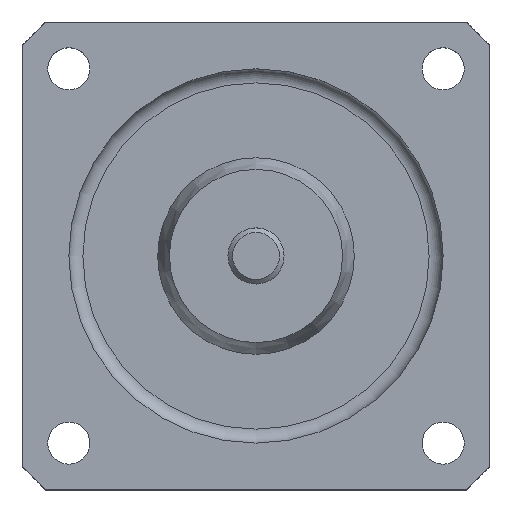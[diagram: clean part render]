
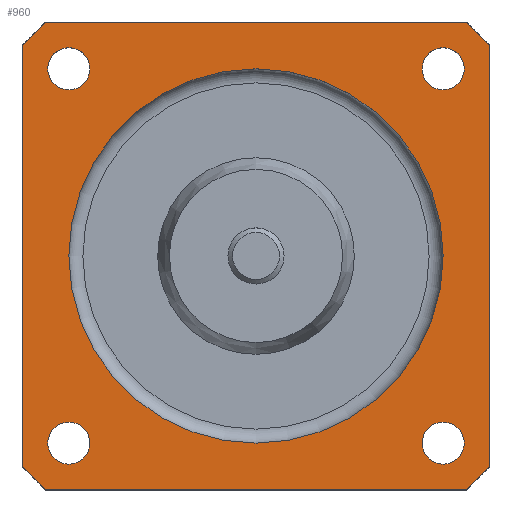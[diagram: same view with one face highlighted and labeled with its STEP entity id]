
A CAD part, top view. The second image highlights one B-rep face of the part: STEP entity #960.
In plain terms, the highlighted planar face has unit normal (0, 0, 1).
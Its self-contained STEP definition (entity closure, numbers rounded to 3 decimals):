
#63=LINE('',#1513,#117);
#67=LINE('',#1522,#121);
#71=LINE('',#1536,#125);
#73=LINE('',#1539,#127);
#78=LINE('',#1550,#132);
#81=LINE('',#1558,#135);
#85=LINE('',#1568,#139);
#86=LINE('',#1570,#140);
#117=VECTOR('',#1224,90.);
#121=VECTOR('',#1232,7.071);
#125=VECTOR('',#1244,90.);
#127=VECTOR('',#1248,7.071);
#132=VECTOR('',#1259,90.);
#135=VECTOR('',#1266,7.071);
#139=VECTOR('',#1276,90.);
#140=VECTOR('',#1279,7.071);
#160=PLANE('',#1049);
#173=FACE_BOUND('',#328,.T.);
#174=FACE_BOUND('',#329,.T.);
#175=FACE_BOUND('',#330,.T.);
#176=FACE_BOUND('',#331,.T.);
#177=FACE_BOUND('',#332,.T.);
#262=FACE_OUTER_BOUND('',#327,.T.);
#327=EDGE_LOOP('',(#773,#774,#775,#776,#777,#778,#779,#780));
#328=EDGE_LOOP('',(#781));
#329=EDGE_LOOP('',(#782));
#330=EDGE_LOOP('',(#783));
#331=EDGE_LOOP('',(#784));
#332=EDGE_LOOP('',(#785));
#412=CIRCLE('',#1050,4.5);
#413=CIRCLE('',#1051,4.5);
#414=CIRCLE('',#1052,4.5);
#415=CIRCLE('',#1053,4.5);
#416=CIRCLE('',#1054,40.);
#479=VERTEX_POINT('',#1510);
#480=VERTEX_POINT('',#1512);
#483=VERTEX_POINT('',#1520);
#488=VERTEX_POINT('',#1533);
#489=VERTEX_POINT('',#1535);
#492=VERTEX_POINT('',#1548);
#495=VERTEX_POINT('',#1556);
#498=VERTEX_POINT('',#1566);
#499=VERTEX_POINT('',#1573);
#500=VERTEX_POINT('',#1575);
#501=VERTEX_POINT('',#1577);
#502=VERTEX_POINT('',#1579);
#503=VERTEX_POINT('',#1581);
#579=EDGE_CURVE('',#479,#480,#63,.T.);
#584=EDGE_CURVE('',#483,#479,#67,.T.);
#590=EDGE_CURVE('',#488,#489,#71,.T.);
#592=EDGE_CURVE('',#480,#488,#73,.T.);
#598=EDGE_CURVE('',#492,#483,#78,.T.);
#602=EDGE_CURVE('',#495,#492,#81,.T.);
#607=EDGE_CURVE('',#498,#495,#85,.T.);
#608=EDGE_CURVE('',#489,#498,#86,.T.);
#610=EDGE_CURVE('',#499,#499,#412,.T.);
#611=EDGE_CURVE('',#500,#500,#413,.T.);
#612=EDGE_CURVE('',#501,#501,#414,.T.);
#613=EDGE_CURVE('',#502,#502,#415,.T.);
#614=EDGE_CURVE('',#503,#503,#416,.T.);
#773=ORIENTED_EDGE('',*,*,#592,.F.);
#774=ORIENTED_EDGE('',*,*,#579,.F.);
#775=ORIENTED_EDGE('',*,*,#584,.F.);
#776=ORIENTED_EDGE('',*,*,#598,.F.);
#777=ORIENTED_EDGE('',*,*,#602,.F.);
#778=ORIENTED_EDGE('',*,*,#607,.F.);
#779=ORIENTED_EDGE('',*,*,#608,.F.);
#780=ORIENTED_EDGE('',*,*,#590,.F.);
#781=ORIENTED_EDGE('',*,*,#610,.T.);
#782=ORIENTED_EDGE('',*,*,#611,.T.);
#783=ORIENTED_EDGE('',*,*,#612,.T.);
#784=ORIENTED_EDGE('',*,*,#613,.T.);
#785=ORIENTED_EDGE('',*,*,#614,.F.);
#960=ADVANCED_FACE('',(#262,#173,#174,#175,#176,#177),#160,.T.);
#1049=AXIS2_PLACEMENT_3D('',#1572,#1281,#1282);
#1050=AXIS2_PLACEMENT_3D('',#1574,#1283,#1284);
#1051=AXIS2_PLACEMENT_3D('',#1576,#1285,#1286);
#1052=AXIS2_PLACEMENT_3D('',#1578,#1287,#1288);
#1053=AXIS2_PLACEMENT_3D('',#1580,#1289,#1290);
#1054=AXIS2_PLACEMENT_3D('',#1582,#1291,#1292);
#1224=DIRECTION('',(0.,1.,0.));
#1232=DIRECTION('',(-0.707,0.707,0.));
#1244=DIRECTION('',(1.,0.,0.));
#1248=DIRECTION('',(0.707,0.707,0.));
#1259=DIRECTION('',(-1.,0.,0.));
#1266=DIRECTION('',(-0.707,-0.707,0.));
#1276=DIRECTION('',(0.,-1.,0.));
#1279=DIRECTION('',(0.707,-0.707,0.));
#1281=DIRECTION('center_axis',(0.,0.,1.));
#1282=DIRECTION('ref_axis',(1.,0.,0.));
#1283=DIRECTION('center_axis',(0.,0.,-1.));
#1284=DIRECTION('ref_axis',(1.,0.,0.));
#1285=DIRECTION('center_axis',(0.,0.,-1.));
#1286=DIRECTION('ref_axis',(1.,0.,0.));
#1287=DIRECTION('center_axis',(0.,0.,-1.));
#1288=DIRECTION('ref_axis',(1.,0.,0.));
#1289=DIRECTION('center_axis',(0.,0.,-1.));
#1290=DIRECTION('ref_axis',(1.,0.,0.));
#1291=DIRECTION('center_axis',(0.,0.,1.));
#1292=DIRECTION('ref_axis',(0.,-1.,0.));
#1510=CARTESIAN_POINT('',(-50.,-45.,0.));
#1512=CARTESIAN_POINT('',(-50.,45.,0.));
#1513=CARTESIAN_POINT('',(-50.,-50.,0.));
#1520=CARTESIAN_POINT('',(-45.,-50.,0.));
#1522=CARTESIAN_POINT('',(-36.25,-58.75,0.));
#1533=CARTESIAN_POINT('',(-45.,50.,0.));
#1535=CARTESIAN_POINT('',(45.,50.,0.));
#1536=CARTESIAN_POINT('',(-50.,50.,0.));
#1539=CARTESIAN_POINT('',(-58.75,36.25,0.));
#1548=CARTESIAN_POINT('',(45.,-50.,0.));
#1550=CARTESIAN_POINT('',(50.,-50.,0.));
#1556=CARTESIAN_POINT('',(50.,-45.,0.));
#1558=CARTESIAN_POINT('',(36.25,-58.75,0.));
#1566=CARTESIAN_POINT('',(50.,45.,0.));
#1568=CARTESIAN_POINT('',(50.,50.,0.));
#1570=CARTESIAN_POINT('',(58.75,36.25,0.));
#1572=CARTESIAN_POINT('Origin',(0.,-45.,0.));
#1573=CARTESIAN_POINT('',(-35.5,-40.,0.));
#1574=CARTESIAN_POINT('Origin',(-40.,-40.,0.));
#1575=CARTESIAN_POINT('',(44.5,-40.,0.));
#1576=CARTESIAN_POINT('Origin',(40.,-40.,0.));
#1577=CARTESIAN_POINT('',(44.5,40.,0.));
#1578=CARTESIAN_POINT('Origin',(40.,40.,0.));
#1579=CARTESIAN_POINT('',(-35.5,40.,0.));
#1580=CARTESIAN_POINT('Origin',(-40.,40.,0.));
#1581=CARTESIAN_POINT('',(0.,-40.,0.));
#1582=CARTESIAN_POINT('Origin',(0.,0.,0.));
